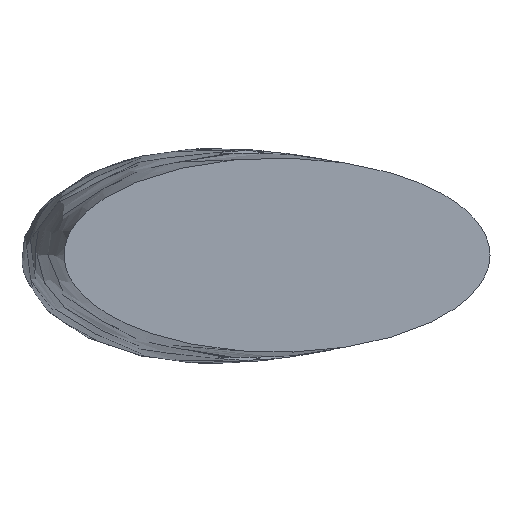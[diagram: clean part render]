
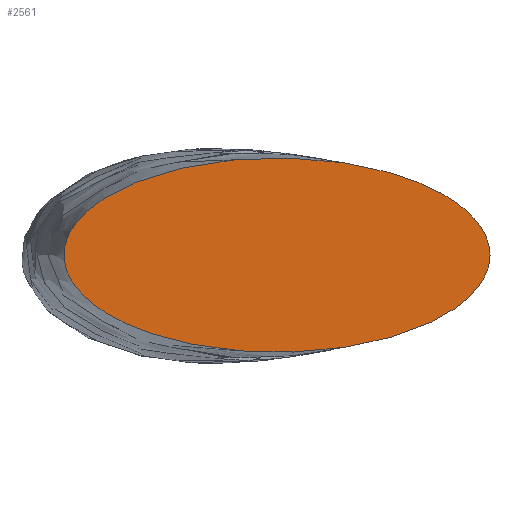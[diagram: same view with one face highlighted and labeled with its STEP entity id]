
A CAD part, top view. The second image highlights one B-rep face of the part: STEP entity #2561.
In plain terms, the highlighted planar face has unit normal (0, 0, 1).
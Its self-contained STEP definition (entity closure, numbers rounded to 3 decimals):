
#22 = VERTEX_POINT('',#23);
#23 = CARTESIAN_POINT('',(21.901,0.,18.));
#32 = B_SPLINE_SURFACE_WITH_KNOTS('',14,2,(
    (#33,#34,#35)
    ,(#36,#37,#38)
    ,(#39,#40,#41)
    ,(#42,#43,#44)
    ,(#45,#46,#47)
    ,(#48,#49,#50)
    ,(#51,#52,#53)
    ,(#54,#55,#56)
    ,(#57,#58,#59)
    ,(#60,#61,#62)
    ,(#63,#64,#65)
    ,(#66,#67,#68)
    ,(#69,#70,#71)
    ,(#72,#73,#74)
    ,(#75,#76,#77
    )),.UNSPECIFIED.,.T.,.F.,.F.,(15,15),(3,3),(0.,1.),(0.,1.),
  .PIECEWISE_BEZIER_KNOTS.);
#33 = CARTESIAN_POINT('',(21.901,0.,18.));
#34 = CARTESIAN_POINT('',(4.268,0.,
    -54.834));
#35 = CARTESIAN_POINT('',(16.237,0.,-128.));
#36 = CARTESIAN_POINT('',(21.901,4.488,18.));
#37 = CARTESIAN_POINT('',(4.268,5.904,-54.834)
  );
#38 = CARTESIAN_POINT('',(16.237,3.142,-128.));
#39 = CARTESIAN_POINT('',(17.15,8.976,18.));
#40 = CARTESIAN_POINT('',(0.236,11.808,-54.834
    ));
#41 = CARTESIAN_POINT('',(12.715,6.283,-128.));
#42 = CARTESIAN_POINT('',(7.649,12.328,18.));
#43 = CARTESIAN_POINT('',(-7.828,16.218,
    -54.834));
#44 = CARTESIAN_POINT('',(5.671,8.63,-128.));
#45 = CARTESIAN_POINT('',(-5.182,13.409,18.));
#46 = CARTESIAN_POINT('',(-18.719,17.64,
    -54.834));
#47 = CARTESIAN_POINT('',(-3.842,9.386,-128.));
#48 = CARTESIAN_POINT('',(-18.501,11.49,18.));
#49 = CARTESIAN_POINT('',(-30.023,15.115,
    -54.834));
#50 = CARTESIAN_POINT('',(-13.716,8.043,-128.));
#51 = CARTESIAN_POINT('',(-28.669,6.659,18.));
#52 = CARTESIAN_POINT('',(-38.653,8.76,-54.834
    ));
#53 = CARTESIAN_POINT('',(-21.255,4.661,-128.));
#54 = CARTESIAN_POINT('',(-32.497,0.,18.));
#55 = CARTESIAN_POINT('',(-41.902,0.,
    -54.834));
#56 = CARTESIAN_POINT('',(-24.093,0.,-128.));
#57 = CARTESIAN_POINT('',(-28.669,-6.659,18.));
#58 = CARTESIAN_POINT('',(-38.653,-8.76,
    -54.834));
#59 = CARTESIAN_POINT('',(-21.255,-4.661,-128.));
#60 = CARTESIAN_POINT('',(-18.501,-11.49,18.));
#61 = CARTESIAN_POINT('',(-30.023,-15.115,
    -54.834));
#62 = CARTESIAN_POINT('',(-13.716,-8.043,-128.));
#63 = CARTESIAN_POINT('',(-5.182,-13.409,18.));
#64 = CARTESIAN_POINT('',(-18.719,-17.64,
    -54.834));
#65 = CARTESIAN_POINT('',(-3.842,-9.386,-128.));
#66 = CARTESIAN_POINT('',(7.649,-12.328,18.));
#67 = CARTESIAN_POINT('',(-7.828,-16.218,
    -54.834));
#68 = CARTESIAN_POINT('',(5.671,-8.63,-128.));
#69 = CARTESIAN_POINT('',(17.15,-8.976,18.));
#70 = CARTESIAN_POINT('',(0.236,-11.808,-54.834)
  );
#71 = CARTESIAN_POINT('',(12.715,-6.283,-128.));
#72 = CARTESIAN_POINT('',(21.901,-4.488,18.));
#73 = CARTESIAN_POINT('',(4.268,-5.904,-54.834)
  );
#74 = CARTESIAN_POINT('',(16.237,-3.142,-128.));
#75 = CARTESIAN_POINT('',(21.901,0.,18.));
#76 = CARTESIAN_POINT('',(4.268,0.,
    -54.834));
#77 = CARTESIAN_POINT('',(16.237,0.,-128.));
#92 = EDGE_CURVE('',#22,#22,#93,.T.);
#93 = SURFACE_CURVE('',#94,(#110,#117),.PCURVE_S1.);
#94 = B_SPLINE_CURVE_WITH_KNOTS('',14,(#95,#96,#97,#98,#99,#100,#101,
    #102,#103,#104,#105,#106,#107,#108,#109),.UNSPECIFIED.,.T.,.F.,(15,
    15),(0.,1.),.PIECEWISE_BEZIER_KNOTS.);
#95 = CARTESIAN_POINT('',(21.901,0.,18.));
#96 = CARTESIAN_POINT('',(21.901,4.488,18.));
#97 = CARTESIAN_POINT('',(17.15,8.976,18.));
#98 = CARTESIAN_POINT('',(7.649,12.328,18.));
#99 = CARTESIAN_POINT('',(-5.182,13.409,18.));
#100 = CARTESIAN_POINT('',(-18.501,11.49,18.));
#101 = CARTESIAN_POINT('',(-28.669,6.659,18.));
#102 = CARTESIAN_POINT('',(-32.497,0.,18.));
#103 = CARTESIAN_POINT('',(-28.669,-6.659,18.));
#104 = CARTESIAN_POINT('',(-18.501,-11.49,18.));
#105 = CARTESIAN_POINT('',(-5.182,-13.409,18.));
#106 = CARTESIAN_POINT('',(7.649,-12.328,18.));
#107 = CARTESIAN_POINT('',(17.15,-8.976,18.));
#108 = CARTESIAN_POINT('',(21.901,-4.488,18.));
#109 = CARTESIAN_POINT('',(21.901,0.,18.));
#110 = PCURVE('',#32,#111);
#111 = DEFINITIONAL_REPRESENTATION('',(#112),#116);
#112 = LINE('',#113,#114);
#113 = CARTESIAN_POINT('',(0.,0.));
#114 = VECTOR('',#115,1.);
#115 = DIRECTION('',(1.,0.));
#116 = ( GEOMETRIC_REPRESENTATION_CONTEXT(2) 
PARAMETRIC_REPRESENTATION_CONTEXT() REPRESENTATION_CONTEXT('2D SPACE',''
  ) );
#117 = PCURVE('',#118,#123);
#118 = PLANE('',#119);
#119 = AXIS2_PLACEMENT_3D('',#120,#121,#122);
#120 = CARTESIAN_POINT('',(21.901,0.,18.));
#121 = DIRECTION('',(0.,0.,1.));
#122 = DIRECTION('',(-1.,0.,0.));
#123 = DEFINITIONAL_REPRESENTATION('',(#124),#140);
#124 = B_SPLINE_CURVE_WITH_KNOTS('',14,(#125,#126,#127,#128,#129,#130,
    #131,#132,#133,#134,#135,#136,#137,#138,#139),.UNSPECIFIED.,.T.,.F.,
  (15,15),(0.,1.),.PIECEWISE_BEZIER_KNOTS.);
#125 = CARTESIAN_POINT('',(0.,0.));
#126 = CARTESIAN_POINT('',(0.,-4.488));
#127 = CARTESIAN_POINT('',(4.751,-8.976));
#128 = CARTESIAN_POINT('',(14.252,-12.328));
#129 = CARTESIAN_POINT('',(27.083,-13.409));
#130 = CARTESIAN_POINT('',(40.402,-11.49));
#131 = CARTESIAN_POINT('',(50.57,-6.659));
#132 = CARTESIAN_POINT('',(54.398,0.));
#133 = CARTESIAN_POINT('',(50.57,6.659));
#134 = CARTESIAN_POINT('',(40.402,11.49));
#135 = CARTESIAN_POINT('',(27.083,13.409));
#136 = CARTESIAN_POINT('',(14.252,12.328));
#137 = CARTESIAN_POINT('',(4.751,8.976));
#138 = CARTESIAN_POINT('',(0.,4.488));
#139 = CARTESIAN_POINT('',(0.,0.));
#140 = ( GEOMETRIC_REPRESENTATION_CONTEXT(2) 
PARAMETRIC_REPRESENTATION_CONTEXT() REPRESENTATION_CONTEXT('2D SPACE',''
  ) );
#2561 = ADVANCED_FACE('',(#2562),#118,.T.);
#2562 = FACE_BOUND('',#2563,.F.);
#2563 = EDGE_LOOP('',(#2564));
#2564 = ORIENTED_EDGE('',*,*,#92,.F.);
